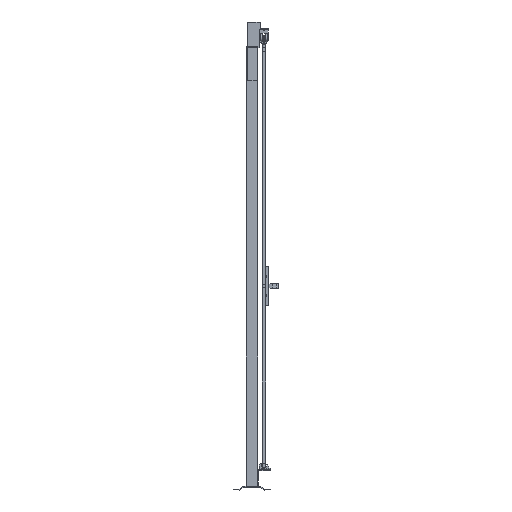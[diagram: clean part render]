
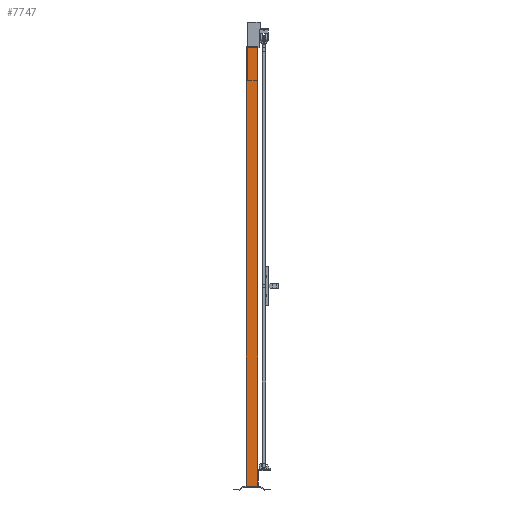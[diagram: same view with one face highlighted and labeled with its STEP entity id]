
A CAD part, left-side view. The second image highlights one B-rep face of the part: STEP entity #7747.
In plain terms, the highlighted planar face has unit normal (-1, 0, 0).
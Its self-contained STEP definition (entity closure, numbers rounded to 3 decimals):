
#667=FACE_OUTER_BOUND('',#1219,.T.);
#1219=EDGE_LOOP('',(#4678,#4679,#4680,#4681));
#1824=VERTEX_POINT('',#16086);
#1825=VERTEX_POINT('',#16088);
#1828=VERTEX_POINT('',#16095);
#1829=VERTEX_POINT('',#16097);
#2976=EDGE_CURVE('',#1824,#1825,#8983,.T.);
#2980=EDGE_CURVE('',#1828,#1829,#8987,.T.);
#2982=EDGE_CURVE('',#1825,#1828,#8989,.T.);
#2984=EDGE_CURVE('',#1824,#1829,#8991,.T.);
#4678=ORIENTED_EDGE('',*,*,#2984,.T.);
#4679=ORIENTED_EDGE('',*,*,#2980,.F.);
#4680=ORIENTED_EDGE('',*,*,#2982,.F.);
#4681=ORIENTED_EDGE('',*,*,#2976,.F.);
#7243=PLANE('',#11631);
#7747=ADVANCED_FACE('',(#667),#7243,.F.);
#8983=LINE('',#16089,#10408);
#8987=LINE('',#16098,#10412);
#8989=LINE('',#16101,#10414);
#8991=LINE('',#16104,#10416);
#10408=VECTOR('',#12785,1.);
#10412=VECTOR('',#12791,1.);
#10414=VECTOR('',#12795,1.);
#10416=VECTOR('',#12799,1.);
#11631=AXIS2_PLACEMENT_3D('',#16103,#12797,#12798);
#12785=DIRECTION('',(0.,-1.,0.));
#12791=DIRECTION('',(0.,1.,0.));
#12795=DIRECTION('',(0.,0.,-1.));
#12797=DIRECTION('center_axis',(1.,0.,0.));
#12798=DIRECTION('ref_axis',(0.,0.,-1.));
#12799=DIRECTION('',(0.,0.,-1.));
#16086=CARTESIAN_POINT('',(-30.,30.,2320.));
#16088=CARTESIAN_POINT('',(-30.,-30.,2320.));
#16089=CARTESIAN_POINT('',(-30.,0.,2320.));
#16095=CARTESIAN_POINT('',(-30.,-30.,20.));
#16097=CARTESIAN_POINT('',(-30.,30.,20.));
#16098=CARTESIAN_POINT('',(-30.,0.,20.));
#16101=CARTESIAN_POINT('',(-30.,-30.,1170.));
#16103=CARTESIAN_POINT('Origin',(-30.,0.,
1170.));
#16104=CARTESIAN_POINT('',(-30.,30.,1170.));
